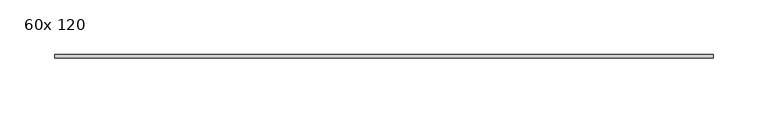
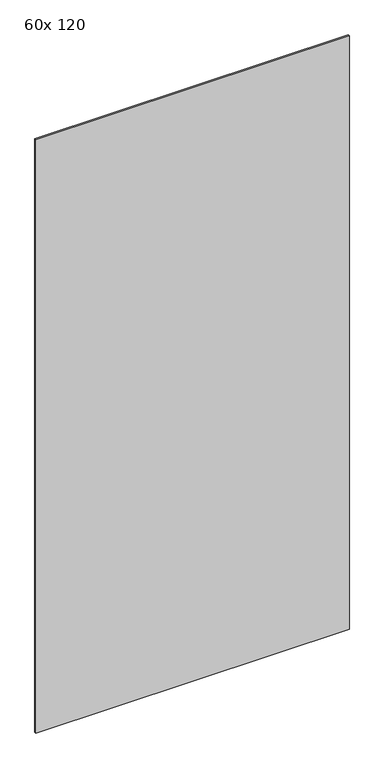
"""IFC4 building model written with IfcOpenShell, lengths in millimetres: flow terminal geometry, ESPEJO RECTANGULAR : 60x 120."""

import ifcopenshell
import ifcopenshell.guid

model = None  # the IFC model being written
_history = None  # IfcOwnerHistory: only IFC2X3 demands one
_inside = {}  # id of a spatial element -> (the spatial element, [elements in it])
_under = {}  # id of a project, library or spatial element -> (it, [spatial elements below it])
_declared = {}  # id of a project -> (the project, [libraries it declares])
_typed = {}  # id of a type object -> (the type object, [elements of that type])
_made_of = {}  # id of a material, layer set ... -> (it, [elements and type objects made of it])


def new_model(schema):
    """Start an empty IFC model of exactly this schema.

    Asked for "IFC4X3", IfcOpenShell would pick the latest addendum, in which some entities
    have other attributes; the version numbers below select the first issue.
    IFC2X3 requires an IfcOwnerHistory on every rooted entity: one is made here for all.
    """
    global model, _history
    if schema == "IFC4X3":
        model = ifcopenshell.file(schema_version=(4, 3, 0, 0))
    else:
        model = ifcopenshell.file(schema=schema)
    _inside.clear()
    _under.clear()
    _declared.clear()
    _typed.clear()
    _made_of.clear()
    _history = None
    if model.schema == "IFC2X3":
        org = make("IfcOrganization", Name="unknown")
        user = make(
            "IfcPersonAndOrganization",
            ThePerson=make("IfcPerson", FamilyName="unknown"),
            TheOrganization=org,
        )
        app = make(
            "IfcApplication",
            ApplicationDeveloper=org,
            Version="unknown",
            ApplicationFullName="unknown",
            ApplicationIdentifier="unknown",
        )
        _history = make(
            "IfcOwnerHistory",
            OwningUser=user,
            OwningApplication=app,
            ChangeAction="ADDED",
            CreationDate=0,
        )
    return model


def make(cls, **values):
    """One entity of the class cls with the attributes given. An attribute that is None is left unset."""
    return model.create_entity(
        cls, **{name: value for name, value in values.items() if value is not None}
    )


def rooted(cls, **values):
    """An entity with a GlobalId (a new one), such as an element, a storey or a relation."""
    return make(cls, GlobalId=ifcopenshell.guid.new(), OwnerHistory=_history, **values)


def si_unit(unit_type, name, prefix=None):
    """IfcSIUnit, for example si_unit("LENGTHUNIT", "METRE", prefix="MILLI")."""
    return make("IfcSIUnit", UnitType=unit_type, Prefix=prefix, Name=name)


def assignment(units):
    """IfcUnitAssignment: the units of a project."""
    return None if units is None else make("IfcUnitAssignment", Units=units)


def point(xyz):
    """IfcCartesianPoint."""
    return None if xyz is None else make("IfcCartesianPoint", Coordinates=xyz)


def direction(xyz):
    """IfcDirection."""
    return None if xyz is None else make("IfcDirection", DirectionRatios=xyz)


def frame(location, z_axis=None, x_axis=None):
    """IfcAxis2Placement3D, a coordinate frame: its origin and axes. An axis left out is left unset."""
    return make(
        "IfcAxis2Placement3D",
        Location=point(location),
        Axis=direction(z_axis),
        RefDirection=direction(x_axis),
    )


def origin():
    """The frame at (0, 0, 0) with its axes left unset."""
    return frame((0.0, 0.0, 0.0))


def place(relative_to, where):
    """IfcLocalPlacement: puts the frame where relative to a parent placement (None: the world)."""
    return make(
        "IfcLocalPlacement", PlacementRelTo=relative_to, RelativePlacement=where
    )


def context(
    kind, dimensions, precision=None, world=None, true_north=None, identifier=None
):
    """IfcGeometricRepresentationContext, for example the 3D "Model" context."""
    return make(
        "IfcGeometricRepresentationContext",
        ContextIdentifier=identifier,
        ContextType=kind,
        CoordinateSpaceDimension=dimensions,
        Precision=precision,
        WorldCoordinateSystem=world,
        TrueNorth=true_north,
    )


def project(units=None, contexts=None):
    """IfcProject with its units and contexts."""
    return rooted(
        "IfcProject",
        Name="project",
        RepresentationContexts=contexts,
        UnitsInContext=assignment(units),
    )


def spatial(cls, under=None, at=None, **own):
    """A site, building, storey or space (cls), placed at a placement, below another one or the project."""
    s = rooted(cls, ObjectPlacement=at, **own)
    if under is not None:
        _under.setdefault(under.id(), (under, []))[1].append(s)
    return s


def polyline(points):
    """IfcPolyline through the points."""
    return make("IfcPolyline", Points=[point(p) for p in points])


def outline(outer, holes=None, kind="AREA"):
    """IfcArbitraryClosedProfileDef: a profile drawn as a closed curve; with holes, ...WithVoids."""
    if holes is None:
        return make("IfcArbitraryClosedProfileDef", ProfileType=kind, OuterCurve=outer)
    return make(
        "IfcArbitraryProfileDefWithVoids",
        ProfileType=kind,
        OuterCurve=outer,
        InnerCurves=holes,
    )


def extrude(swept, where, along, depth):
    """IfcExtrudedAreaSolid: the profile swept, set in the frame where, extruded along a direction by depth."""
    return make(
        "IfcExtrudedAreaSolid",
        SweptArea=swept,
        Position=where,
        ExtrudedDirection=direction(along),
        Depth=depth,
    )


def shape(context_of_items, identifier, shape_type, items):
    """IfcShapeRepresentation: the items that make up one representation, for example the "Body"."""
    return make(
        "IfcShapeRepresentation",
        ContextOfItems=context_of_items,
        RepresentationIdentifier=identifier,
        RepresentationType=shape_type,
        Items=items,
    )


def source(mapping_origin, context_of_items, identifier, shape_type, items):
    """IfcRepresentationMap: a shape defined once, which mapped items show again and again."""
    return make(
        "IfcRepresentationMap",
        MappingOrigin=mapping_origin,
        MappedRepresentation=shape(context_of_items, identifier, shape_type, items),
    )


def transform(
    local_origin,
    x_axis=None,
    y_axis=None,
    z_axis=None,
    scale=None,
    scale2=None,
    scale3=None,
    uniform=True,
):
    """IfcCartesianTransformationOperator3D, or its non-uniform kind. x_axis, y_axis, z_axis: its Axis1, 2, 3."""
    if uniform:
        return make(
            "IfcCartesianTransformationOperator3D",
            Axis1=direction(x_axis),
            Axis2=direction(y_axis),
            LocalOrigin=point(local_origin),
            Scale=scale,
            Axis3=direction(z_axis),
        )
    return make(
        "IfcCartesianTransformationOperator3DnonUniform",
        Axis1=direction(x_axis),
        Axis2=direction(y_axis),
        LocalOrigin=point(local_origin),
        Scale=scale,
        Axis3=direction(z_axis),
        Scale2=scale2,
        Scale3=scale3,
    )


def mapped(mapping_source, mapping_target):
    """IfcMappedItem: shows the shape of a source again, moved by a transform."""
    return make(
        "IfcMappedItem", MappingSource=mapping_source, MappingTarget=mapping_target
    )


def made_of(thing, what):
    """Note that an element or type object is made of a material, layer set ...; save() writes the relation."""
    if what is not None:
        _made_of.setdefault(what.id(), (what, []))[1].append(thing)
    return thing


def element(
    cls,
    number,
    at=None,
    inside=None,
    cuts=None,
    type_object=None,
    material=None,
    context=None,
    identifier="Body",
    shape_type=None,
    held_by="IfcProductDefinitionShape",
    body=None,
    shapes=None,
    **own,
):
    """One element of the class cls, such as IfcWall. Its Tag is "e" and its number.

    at: its placement. inside: the storey or other place that contains it. cuts: it is an
    opening in that element (IfcRelVoidsElement). A single representation is given by context,
    identifier, shape_type and body (its items); several are given by shapes. held_by: the class
    of the entity that holds the representations. save() writes the other relations.
    """
    e = rooted(cls, Tag="e%d" % number, ObjectPlacement=at, **own)
    if body is not None:
        shapes = [shape(context, identifier, shape_type, body)]
    if shapes is not None:
        e.Representation = make(held_by, Representations=shapes)
    if inside is not None:
        _inside.setdefault(inside.id(), (inside, []))[1].append(e)
    if cuts is not None:
        rooted(
            "IfcRelVoidsElement", RelatingBuildingElement=cuts, RelatedOpeningElement=e
        )
    if type_object is not None:
        _typed.setdefault(type_object.id(), (type_object, []))[1].append(e)
    return made_of(e, material)


def aggregate(whole, parts):
    """IfcRelAggregates: a whole, such as a stair, and the parts it consists of."""
    return rooted("IfcRelAggregates", RelatingObject=whole, RelatedObjects=parts)


def save(model, path):
    """Write the relations noted so far, then the file.

    IfcRelAggregates (storeys below a building ...), IfcRelContainedInSpatialStructure (elements
    in a storey), IfcRelDefinesByType, IfcRelAssociatesMaterial and IfcRelDeclares: one each for
    every whole, place, type object, material and project.
    """
    for whole, parts in _under.values():
        aggregate(whole, parts)
    for where, things in _inside.values():
        rooted(
            "IfcRelContainedInSpatialStructure",
            RelatedElements=things,
            RelatingStructure=where,
        )
    for kind, things in _typed.values():
        rooted("IfcRelDefinesByType", RelatedObjects=things, RelatingType=kind)
    for what, things in _made_of.values():
        rooted("IfcRelAssociatesMaterial", RelatedObjects=things, RelatingMaterial=what)
    for by, libraries in _declared.values():
        rooted("IfcRelDeclares", RelatingContext=by, RelatedDefinitions=libraries)
    model.write(path)


def flow_terminal_60x_120_ec79c8a1(model_context):
    return source(origin(), model_context, "Body", "SweptSolid", [
        extrude(outline(polyline([(300.0, -11.35), (300.0, -14.525), (-300.0, -14.525), (-300.0, -11.35), (300.0, -11.35)])), frame((0.0, 0.0, 600.0), z_axis=(0.0, 0.0, 1.0), x_axis=(1.0, 0.0, 0.0)), (0.0, 0.0, 1.0), 1200.0),
    ])


if __name__ == "__main__":
    model = new_model("IFC4")
    model_context = context("Model", 3, world=origin())
    ifc_project = project(units=[si_unit("LENGTHUNIT", "METRE", prefix="MILLI")], contexts=[model_context])
    site = spatial("IfcSite", under=ifc_project)
    building = spatial("IfcBuilding", under=site)
    placement = place(None, origin())
    flow_terminal_60x_120_shape = flow_terminal_60x_120_ec79c8a1(model_context)
    element("IfcFlowTerminal", 1, ObjectType="ESPEJO RECTANGULAR : 60x 120", at=placement, inside=building, context=model_context, shape_type="MappedRepresentation", body=[
        mapped(flow_terminal_60x_120_shape, transform((0.0, 0.0, 0.0), x_axis=(1.0, 0.0, 0.0), y_axis=(0.0, 1.0, 0.0), z_axis=(0.0, 0.0, 1.0))),
    ])
    save(model, "model.ifc")
